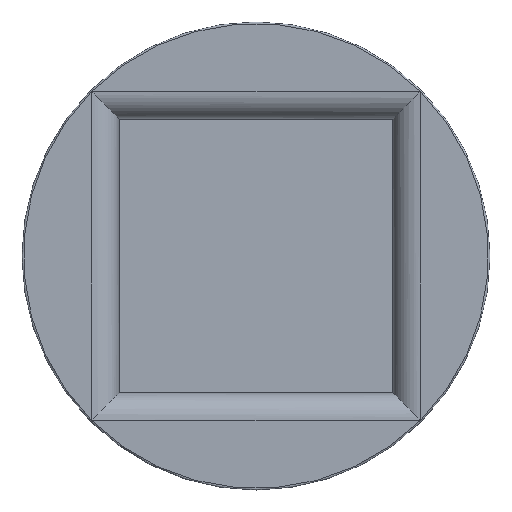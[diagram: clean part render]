
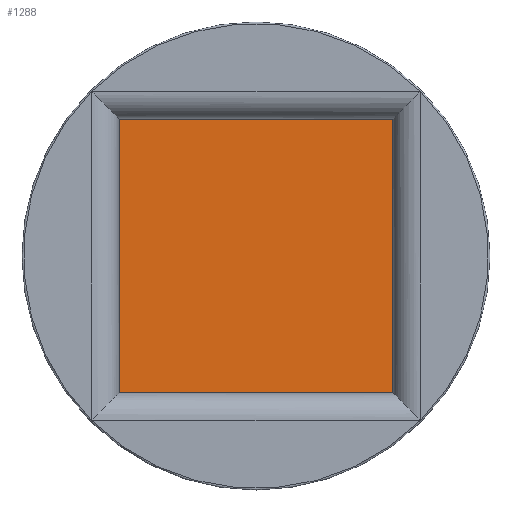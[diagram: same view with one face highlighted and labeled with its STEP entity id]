
A CAD part, top view. The second image highlights one B-rep face of the part: STEP entity #1288.
In plain terms, the highlighted planar face has unit normal (0, 0, 1).
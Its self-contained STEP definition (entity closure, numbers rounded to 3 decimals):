
#45 = LINE ( 'NONE', #701, #345 ) ;
#116 = ORIENTED_EDGE ( 'NONE', *, *, #1313, .T. ) ;
#159 = DIRECTION ( 'NONE',  ( 0., 1., 0. ) ) ;
#197 = VECTOR ( 'NONE', #860, 1000. ) ;
#291 = CARTESIAN_POINT ( 'NONE',  ( 180., -180., 8.72 ) ) ;
#305 = DIRECTION ( 'NONE',  ( 0., -1., 0. ) ) ;
#345 = VECTOR ( 'NONE', #305, 1000. ) ;
#358 = LINE ( 'NONE', #1407, #884 ) ;
#369 = EDGE_LOOP ( 'NONE', ( #1281, #116, #1010, #532 ) ) ;
#532 = ORIENTED_EDGE ( 'NONE', *, *, #951, .T. ) ;
#670 = EDGE_CURVE ( 'NONE', #1147, #1062, #1543, .T. ) ;
#687 = CARTESIAN_POINT ( 'NONE',  ( 0., 0., 8.72 ) ) ;
#701 = CARTESIAN_POINT ( 'NONE',  ( -180., 180., 8.72 ) ) ;
#725 = VERTEX_POINT ( 'NONE', #1563 ) ;
#740 = CARTESIAN_POINT ( 'NONE',  ( -180., 180., 8.72 ) ) ;
#860 = DIRECTION ( 'NONE',  ( -1., 0., 0. ) ) ;
#884 = VECTOR ( 'NONE', #905, 1000. ) ;
#905 = DIRECTION ( 'NONE',  ( 1., 0., 0. ) ) ;
#951 = EDGE_CURVE ( 'NONE', #1062, #1008, #45, .T. ) ;
#1008 = VERTEX_POINT ( 'NONE', #1248 ) ;
#1010 = ORIENTED_EDGE ( 'NONE', *, *, #670, .T. ) ;
#1051 = VECTOR ( 'NONE', #159, 1000. ) ;
#1062 = VERTEX_POINT ( 'NONE', #740 ) ;
#1147 = VERTEX_POINT ( 'NONE', #1690 ) ;
#1202 = LINE ( 'NONE', #291, #1051 ) ;
#1218 = PLANE ( 'NONE',  #1580 ) ;
#1248 = CARTESIAN_POINT ( 'NONE',  ( -180., -180., 8.72 ) ) ;
#1281 = ORIENTED_EDGE ( 'NONE', *, *, #1565, .T. ) ;
#1288 = ADVANCED_FACE ( 'NONE', ( #1345 ), #1218, .T. ) ;
#1313 = EDGE_CURVE ( 'NONE', #725, #1147, #1202, .T. ) ;
#1331 = DIRECTION ( 'NONE',  ( 0., 0., 1. ) ) ;
#1345 = FACE_OUTER_BOUND ( 'NONE', #369, .T. ) ;
#1407 = CARTESIAN_POINT ( 'NONE',  ( -180., -180., 8.72 ) ) ;
#1543 = LINE ( 'NONE', #1553, #197 ) ;
#1553 = CARTESIAN_POINT ( 'NONE',  ( 180., 180., 8.72 ) ) ;
#1563 = CARTESIAN_POINT ( 'NONE',  ( 180., -180., 8.72 ) ) ;
#1565 = EDGE_CURVE ( 'NONE', #1008, #725, #358, .T. ) ;
#1580 = AXIS2_PLACEMENT_3D ( 'NONE', #687, #1331, #1727 ) ;
#1690 = CARTESIAN_POINT ( 'NONE',  ( 180., 180., 8.72 ) ) ;
#1727 = DIRECTION ( 'NONE',  ( 1., 0., 0. ) ) ;
